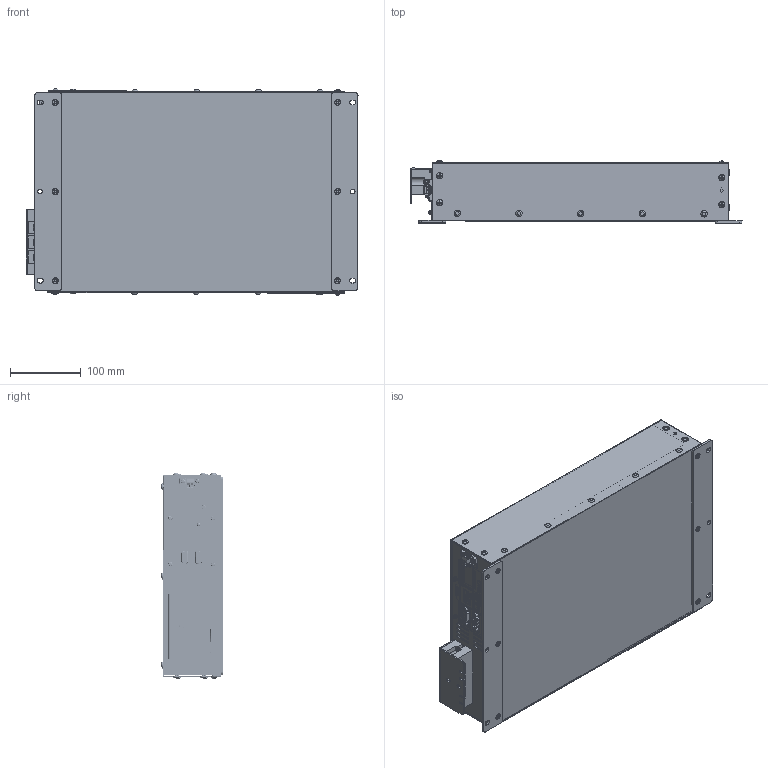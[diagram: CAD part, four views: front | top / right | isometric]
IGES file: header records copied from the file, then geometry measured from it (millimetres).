
Global section: file name: OLED VW2COM ASS'Y_2026.06.02_단순화_동국1차,22HAutodesk; native system: Inventor 2026; preprocessor: unknown; author: Administrator; date: 20260602.105400; units: millimetre
Bounding box: 469.44 x 88.98 x 291.98 mm (x, y, z)
Volume: 697540.6 mm3; surface area: 852599.4 mm2
Topology: 13 solids, 13 shells, 5930 faces, 16213 edges, 10813 vertices
Faces by surface type: bspline 5930
